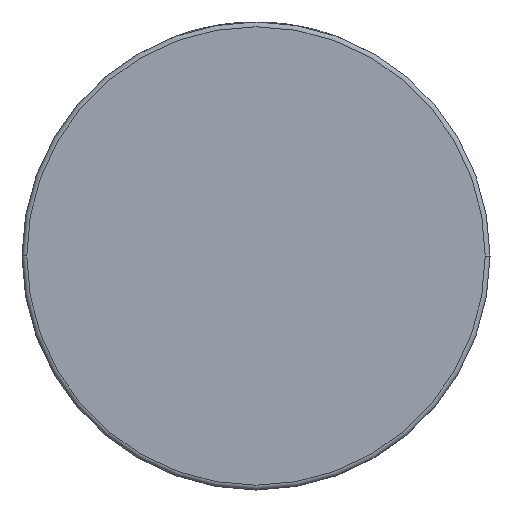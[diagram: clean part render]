
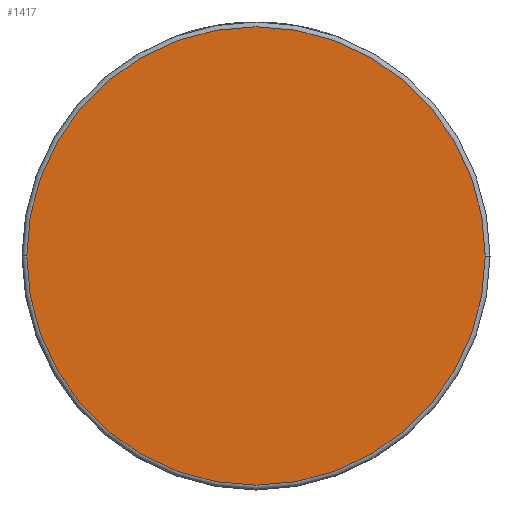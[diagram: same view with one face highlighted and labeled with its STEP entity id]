
A CAD part, front view. The second image highlights one B-rep face of the part: STEP entity #1417.
In plain terms, the highlighted planar face has unit normal (0, -1, 0).
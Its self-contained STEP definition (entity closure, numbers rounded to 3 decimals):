
#173 = ORIENTED_EDGE ( 'NONE', *, *, #2949, .T. ) ;
#174 = CARTESIAN_POINT ( 'NONE',  ( -48., -31.5, 0. ) ) ;
#442 = CIRCLE ( 'NONE', #2293, 48. ) ;
#494 = CARTESIAN_POINT ( 'NONE',  ( 0., -31.5, 0. ) ) ;
#1069 = FACE_OUTER_BOUND ( 'NONE', #1990, .T. ) ;
#1083 = CARTESIAN_POINT ( 'NONE',  ( 0., -31.5, 0. ) ) ;
#1106 = DIRECTION ( 'NONE',  ( 1., 0., 0. ) ) ;
#1169 = DIRECTION ( 'NONE',  ( 1., 0., 0. ) ) ;
#1261 = VERTEX_POINT ( 'NONE', #174 ) ;
#1417 = ADVANCED_FACE ( 'NONE', ( #1069 ), #4186, .T. ) ;
#1836 = DIRECTION ( 'NONE',  ( 0., -1., 0. ) ) ;
#1990 = EDGE_LOOP ( 'NONE', ( #173, #2036 ) ) ;
#2036 = ORIENTED_EDGE ( 'NONE', *, *, #3637, .T. ) ;
#2054 = AXIS2_PLACEMENT_3D ( 'NONE', #2423, #3759, #1169 ) ;
#2293 = AXIS2_PLACEMENT_3D ( 'NONE', #1083, #3493, #1106 ) ;
#2423 = CARTESIAN_POINT ( 'NONE',  ( 49., -31.5, 0. ) ) ;
#2949 = EDGE_CURVE ( 'NONE', #3829, #1261, #3940, .T. ) ;
#2970 = CARTESIAN_POINT ( 'NONE',  ( 48., -31.5, 0. ) ) ;
#3493 = DIRECTION ( 'NONE',  ( 0., -1., 0. ) ) ;
#3637 = EDGE_CURVE ( 'NONE', #1261, #3829, #442, .T. ) ;
#3759 = DIRECTION ( 'NONE',  ( 0., -1., 0. ) ) ;
#3829 = VERTEX_POINT ( 'NONE', #2970 ) ;
#3855 = DIRECTION ( 'NONE',  ( 1., 0., 0. ) ) ;
#3940 = CIRCLE ( 'NONE', #4162, 48. ) ;
#4162 = AXIS2_PLACEMENT_3D ( 'NONE', #494, #1836, #3855 ) ;
#4186 = PLANE ( 'NONE',  #2054 ) ;
